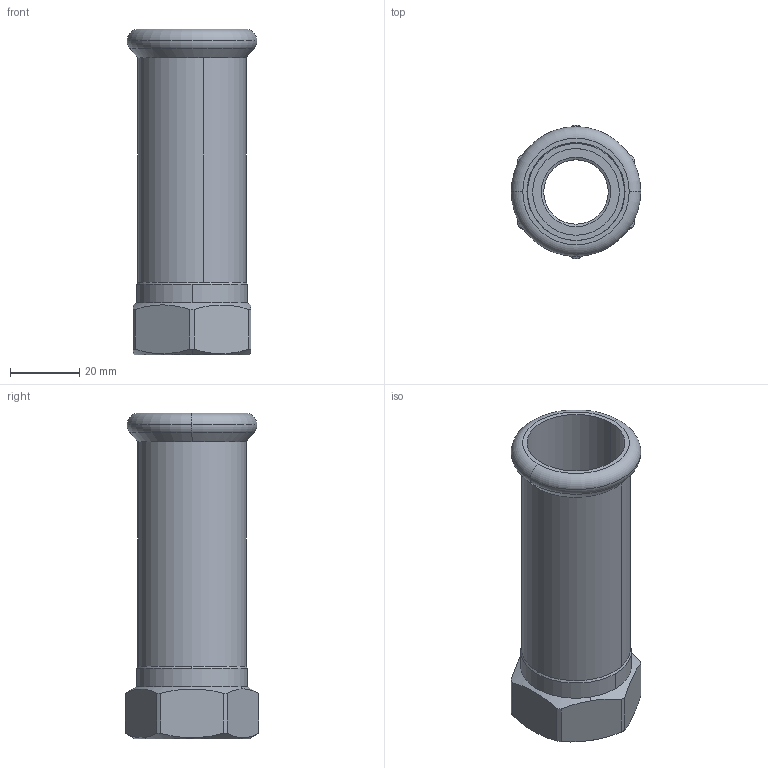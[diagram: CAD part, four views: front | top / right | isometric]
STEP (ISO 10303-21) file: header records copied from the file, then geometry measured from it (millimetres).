
FILE_DESCRIPTION(('CoCreate Modeling STEP Export'),'2;1');
FILE_NAME('C1443 28xRp1-2.stp','2014-11-12T16:44:06',(''),(''),'CoCreate Modeling STEP processor for AP214 (Solid Model)','CoCreate Modeling 17.00A 17-Jun-2010 (C) Parametric Technology GmbH','');
FILE_SCHEMA(('AUTOMOTIVE_DESIGN { 1 0 10303 214 1 1 1 1 }'));
Length unit declared in the file: millimetre
Products named in the file (2): C1443_28xRp1-2
Assembly tree (1 placements, depth 2):
  C1443_28xRp1-2
    C1443_28xRp1-2
Bounding box: 37.45 x 38.5 x 94 mm (x, y, z)
Volume: 23159 mm3; surface area: 19084.6 mm2
Topology: 1 solids, 1 shells, 46 faces, 123 edges, 81 vertices
Faces by surface type: cylinder 18, cone 14, plane 10, torus 4
Entity records: 2193 total; most frequent: CARTESIAN_POINT 1108, ORIENTED_EDGE 246, DIRECTION 182, EDGE_CURVE 123, VERTEX_POINT 81, AXIS2_PLACEMENT_3D 72, EDGE_LOOP 50, FACE_OUTER_BOUND 46
